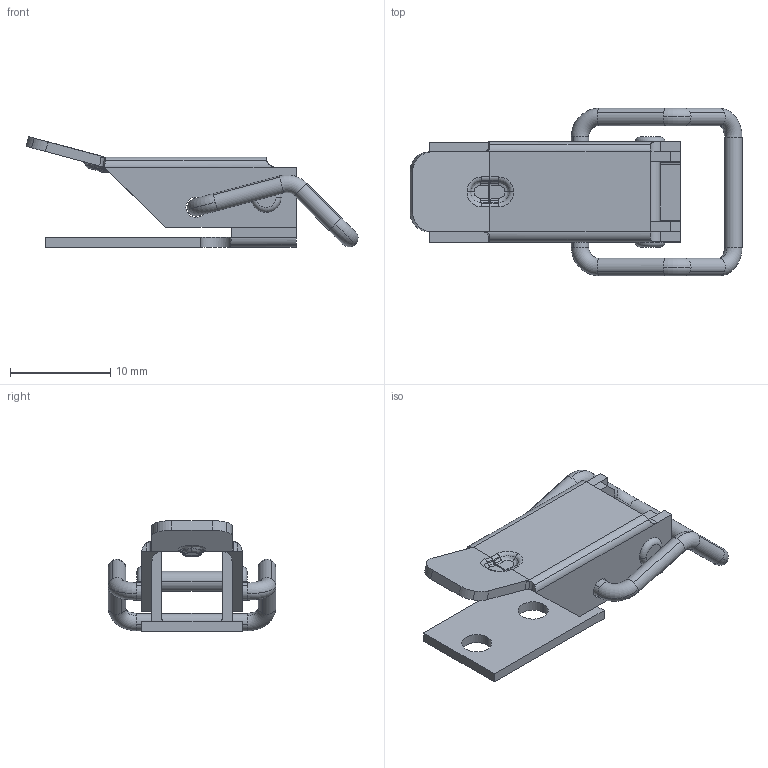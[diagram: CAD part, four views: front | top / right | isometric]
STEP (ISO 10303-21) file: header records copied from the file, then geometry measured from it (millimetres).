
FILE_DESCRIPTION((''),'2;1');
FILE_NAME('3001.stp','2023-09-28T15:38:31',(''),(''),'Mechanical Desktop 2006','Mechanical Desktop 2006',', , ');
FILE_SCHEMA(('CONFIG_CONTROL_DESIGN'));
Length unit declared in the file: millimetre
Products named in the file (5): 3001; TEIL3; TEIL4; ~TEIL2; ~TEIL1
Assembly tree (4 placements, depth 2):
  3001
    TEIL3
    TEIL4
    ~TEIL2
    ~TEIL1
Bounding box: 33.17 x 16.75 x 11.07 mm (x, y, z)
Volume: 858.8 mm3; surface area: 2004.3 mm2
Topology: 4 solids, 4 shells, 197 faces, 511 edges, 322 vertices
Faces by surface type: cylinder 97, plane 58, torus 22, bspline 18, sphere 2
Entity records: 7438 total; most frequent: CARTESIAN_POINT 2329, DIRECTION 1121, ORIENTED_EDGE 1018, EDGE_CURVE 509, AXIS2_PLACEMENT_3D 452, VERTEX_POINT 322, CIRCLE 236, VECTOR 217
